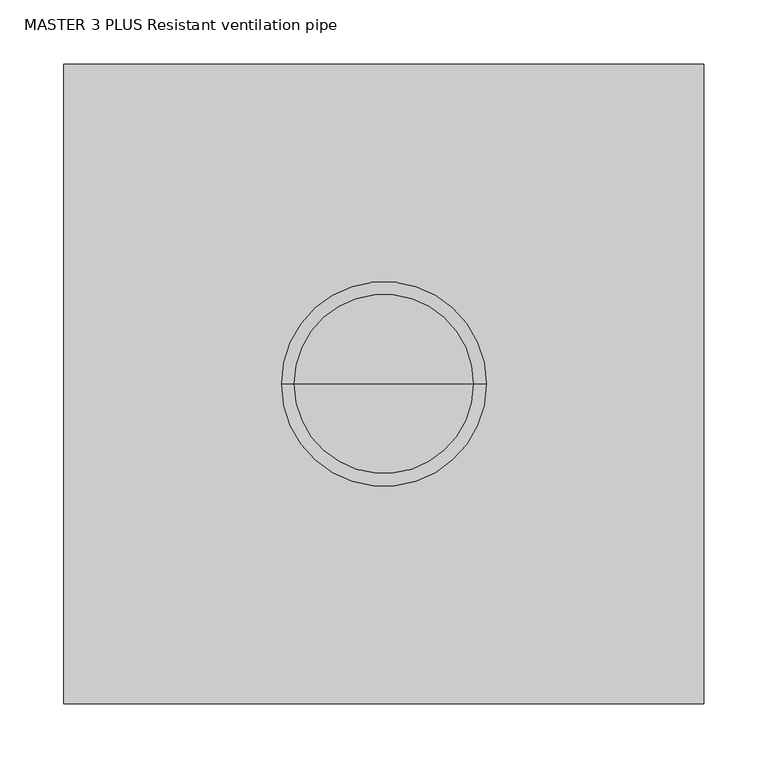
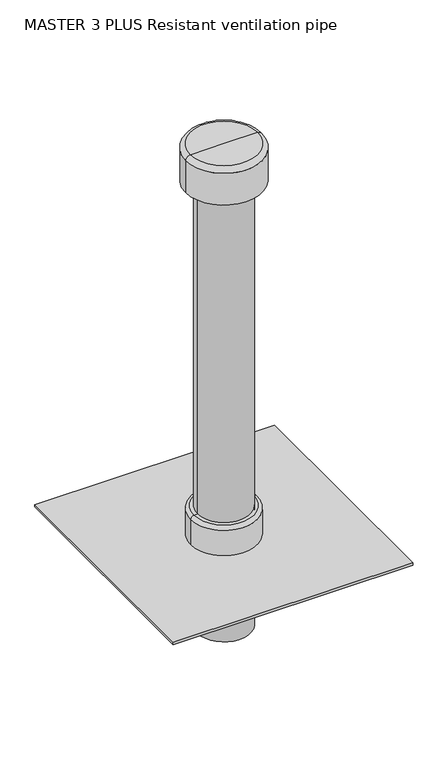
"""IFC4 building model written with IfcOpenShell, lengths in millimetres: valve geometry, MASTER 3 PLUS Resistant ventilation pipe : DN110, Lesp = 200, L3 = 860 mm."""

from ifc_helpers import new_model, si_unit, point, frame, origin, origin_with_axes, origin_2d, place, context, project, spatial, polyline, circle_curve, ellipse_curve, trimmed, segment, composite_curve, outline, extrude, source, transform, mapped, element, save
from ifc_brep_helpers import plane_surface, cylinder_surface, revolved_surface, advanced_brep


def master_3_plus_resistant_ventilation_pipe_44897eb0(model_context):
    return source(origin(), model_context, "Body", "SolidModel", [
        advanced_brep(
        [(70.0, 0.0, 1060.0), (-70.0, 0.0, 1060.0), (0.0, 0.0, 1060.0), (80.0, 0.0, 980.0), (-80.0, 0.0, 980.0), (-80.0, 0.0, 1050.0), (80.0, 0.0, 1050.0), (0.0, 0.0, 980.0)],
        [
            (0, 1, circle_curve(frame((0.0, 0.0, 1060.0), z_axis=(0.0, 0.0, 1.0), x_axis=(-1.0, 0.0, 0.0)), 70.0)),
            (1, 2),
            (2, 0),
            (1, 0, circle_curve(frame((0.0, 0.0, 1060.0), z_axis=(0.0, 0.0, 1.0), x_axis=(-1.0, 0.0, 0.0)), 70.0)),
            (3, 4, circle_curve(frame((0.0, 0.0, 980.0), z_axis=(0.0, 0.0, 1.0), x_axis=(-1.0, 0.0, 0.0)), 80.0)),
            (4, 5),
            (5, 6, circle_curve(frame((0.0, 0.0, 1050.0), z_axis=(0.0, 0.0, -1.0), x_axis=(-1.0, 0.0, 0.0)), 80.0)),
            (6, 3),
            (4, 3, circle_curve(frame((0.0, 0.0, 980.0), z_axis=(0.0, 0.0, 1.0), x_axis=(-1.0, 0.0, 0.0)), 80.0)),
            (6, 5, circle_curve(frame((0.0, 0.0, 1050.0), z_axis=(0.0, 0.0, -1.0), x_axis=(-1.0, 0.0, 0.0)), 80.0)),
            (7, 4),
            (3, 7),
            (5, 1, circle_curve(frame((-70.0, 0.0, 1050.0), z_axis=(0.0, 1.0, 0.0), x_axis=(1.0, 0.0, 0.0)), 10.0)),
            (0, 6, circle_curve(frame((70.0, 0.0, 1050.0), z_axis=(0.0, 1.0, 0.0), x_axis=(-1.0, 0.0, 0.0)), 10.0)),
        ],
        [
            plane_surface(frame((0.0, 0.0, 1060.0), z_axis=(0.0, 0.0, 1.0), x_axis=(-1.0, 0.0, 0.0))),
            cylinder_surface(frame((0.0, 0.0, 1060.0), z_axis=(0.0, 0.0, -1.0), x_axis=(-1.0, 0.0, 0.0)), 80.0),
            plane_surface(frame((0.0, 0.0, 980.0), z_axis=(0.0, 0.0, -1.0), x_axis=(-1.0, 0.0, 0.0))),
            revolved_surface(trimmed(ellipse_curve(frame((-70.0, 0.0, 1050.0), z_axis=(0.0, -1.0, 0.0), x_axis=(1.0, 0.0, 0.0)), 10.0, 10.0), [point((-70.0, 0.0, 1060.0))], [point((-80.0, 0.0, 1050.0))], True, "CARTESIAN"), (0.0, 0.0, 1060.0), (0.0, 0.0, -1.0)),
        ],
        [
            (0, [[1, 2, 3]]),
            (0, [[4, -3, -2]]),
            (1, [[5, 6, 7, 8]]),
            (1, [[9, -8, 10, -6]]),
            (2, [[11, -5, 12]]),
            (2, [[-12, -9, -11]]),
            (3, [[-7, 13, -1, 14]]),
            (3, [[-10, -14, -4, -13]]),
        ],
    ),
        extrude(outline(polyline([(250.0, 250.0), (250.0, -250.0), (-250.0, -250.0), (-250.0, 250.0), (250.0, 250.0)]), holes=[composite_curve([segment(trimmed(circle_curve(origin_2d(), 55.0), [point((-55.0, 0.0))], [point((55.0, 0.0))], True, "CARTESIAN"), True, "CONTINUOUS"), segment(trimmed(circle_curve(origin_2d(), 55.0), [point((55.0, 0.0))], [point((-55.0, 0.0))], True, "CARTESIAN"), True, "CONTINUOUS")], self_intersect=False)]), frame((0.0, 0.0, 194.9838403), z_axis=(0.0, 0.0, 1.0), x_axis=(1.0, 0.0, 0.0)), (0.0, 0.0, 1.0), 5.0161597),
        advanced_brep(
        [(69.5, 0.0, 200.0), (-69.5, 0.0, 200.0), (-69.5, 0.0, 255.75), (69.5, 0.0, 255.75), (55.0, 0.0, 200.0), (-55.0, 0.0, 200.0), (55.0, 0.0, 263.0), (-55.0, 0.0, 263.0), (62.25, 0.0, 263.0), (-62.25, 0.0, 263.0)],
        [
            (0, 1, circle_curve(frame((0.0, 0.0, 200.0), z_axis=(0.0, 0.0, 1.0), x_axis=(-1.0, 0.0, 0.0)), 69.5)),
            (1, 2),
            (2, 3, circle_curve(frame((0.0, 0.0, 255.75), z_axis=(0.0, 0.0, -1.0), x_axis=(-1.0, 0.0, 0.0)), 69.5)),
            (3, 0),
            (1, 0, circle_curve(frame((0.0, 0.0, 200.0), z_axis=(0.0, 0.0, 1.0), x_axis=(-1.0, 0.0, 0.0)), 69.5)),
            (3, 2, circle_curve(frame((0.0, 0.0, 255.75), z_axis=(0.0, 0.0, -1.0), x_axis=(-1.0, 0.0, 0.0)), 69.5)),
            (4, 5, circle_curve(frame((0.0, 0.0, 200.0), z_axis=(0.0, 0.0, 1.0), x_axis=(-1.0, 0.0, 0.0)), 55.0)),
            (5, 1),
            (0, 4),
            (5, 4, circle_curve(frame((0.0, 0.0, 200.0), z_axis=(0.0, 0.0, 1.0), x_axis=(-1.0, 0.0, 0.0)), 55.0)),
            (6, 7, circle_curve(frame((0.0, 0.0, 263.0), z_axis=(0.0, 0.0, 1.0), x_axis=(-1.0, 0.0, 0.0)), 55.0)),
            (7, 5),
            (4, 6),
            (7, 6, circle_curve(frame((0.0, 0.0, 263.0), z_axis=(0.0, 0.0, 1.0), x_axis=(-1.0, 0.0, 0.0)), 55.0)),
            (8, 9, circle_curve(frame((0.0, 0.0, 263.0), z_axis=(0.0, 0.0, 1.0), x_axis=(-1.0, 0.0, 0.0)), 62.25)),
            (9, 7),
            (6, 8),
            (9, 8, circle_curve(frame((0.0, 0.0, 263.0), z_axis=(0.0, 0.0, 1.0), x_axis=(-1.0, 0.0, 0.0)), 62.25)),
            (2, 9, circle_curve(frame((-62.25, 0.0, 255.75), z_axis=(0.0, 1.0, 0.0), x_axis=(1.0, 0.0, 0.0)), 7.25)),
            (8, 3, circle_curve(frame((62.25, 0.0, 255.75), z_axis=(0.0, 1.0, 0.0), x_axis=(-1.0, 0.0, 0.0)), 7.25)),
        ],
        [
            cylinder_surface(frame((0.0, 0.0, 263.0), z_axis=(0.0, 0.0, -1.0), x_axis=(-1.0, 0.0, 0.0)), 69.5),
            plane_surface(frame((0.0, 0.0, 200.0), z_axis=(0.0, 0.0, -1.0), x_axis=(-1.0, 0.0, 0.0))),
            revolved_surface(polyline([(-55.0, 0.0, 200.0), (-55.0, 0.0, 263.0)]), (0.0, 0.0, 263.0), (0.0, 0.0, -1.0)),
            plane_surface(frame((0.0, 0.0, 263.0), z_axis=(0.0, 0.0, 1.0), x_axis=(-1.0, 0.0, 0.0))),
            revolved_surface(trimmed(ellipse_curve(frame((-62.25, 0.0, 255.75), z_axis=(0.0, -1.0, 0.0), x_axis=(1.0, 0.0, 0.0)), 7.25, 7.25), [point((-62.25, 0.0, 263.0))], [point((-69.5, 0.0, 255.75))], True, "CARTESIAN"), (0.0, 0.0, 263.0), (0.0, 0.0, -1.0)),
        ],
        [
            (0, [[1, 2, 3, 4]]),
            (0, [[5, -4, 6, -2]]),
            (1, [[7, 8, -1, 9]]),
            (1, [[10, -9, -5, -8]]),
            (2, [[11, 12, -7, 13]]),
            (2, [[14, -13, -10, -12]]),
            (3, [[15, 16, -11, 17]]),
            (3, [[18, -17, -14, -16]]),
            (4, [[-3, 19, -15, 20]]),
            (4, [[-6, -20, -18, -19]]),
        ],
    ),
        extrude(outline(composite_curve([segment(trimmed(circle_curve(origin_2d(), 55.0), [point((55.0, 0.0))], [point((-55.0, 0.0))], False, "CARTESIAN"), True, "CONTINUOUS"), segment(trimmed(circle_curve(origin_2d(), 55.0), [point((-55.0, 0.0))], [point((55.0, 0.0))], False, "CARTESIAN"), True, "CONTINUOUS")], self_intersect=False)), frame((0.0, 0.0, 200.0), z_axis=(0.0, 0.0, 1.0), x_axis=(1.0, 0.0, 0.0)), (0.0, 0.0, 1.0), 832.0),
        extrude(outline(composite_curve([segment(trimmed(circle_curve(origin_2d(), 55.0), [point((-55.0, 0.0))], [point((55.0, 0.0))], False, "CARTESIAN"), True, "CONTINUOUS"), segment(trimmed(circle_curve(origin_2d(), 55.0), [point((55.0, 0.0))], [point((-55.0, 0.0))], False, "CARTESIAN"), True, "CONTINUOUS")], self_intersect=False)), origin_with_axes(), (0.0, 0.0, 1.0), 194.9838403),
    ])


if __name__ == "__main__":
    model = new_model("IFC4")
    model_context = context("Model", 3, world=origin())
    ifc_project = project(units=[si_unit("LENGTHUNIT", "METRE", prefix="MILLI")], contexts=[model_context])
    site = spatial("IfcSite", under=ifc_project)
    building = spatial("IfcBuilding", under=site)
    placement = place(None, origin())
    master_3_plus_resistant_ventilation_pipe_shape = master_3_plus_resistant_ventilation_pipe_44897eb0(model_context)
    element("IfcValve", 1, ObjectType="MASTER 3 PLUS Resistant ventilation pipe : DN110, Lesp = 200, L3 = 860 mm", at=placement, inside=building, context=model_context, shape_type="MappedRepresentation", body=[
        mapped(master_3_plus_resistant_ventilation_pipe_shape, transform((0.0, 0.0, 0.0), x_axis=(1.0, 0.0, 0.0), y_axis=(0.0, 1.0, 0.0), z_axis=(0.0, 0.0, 1.0))),
    ])
    save(model, "model.ifc")
